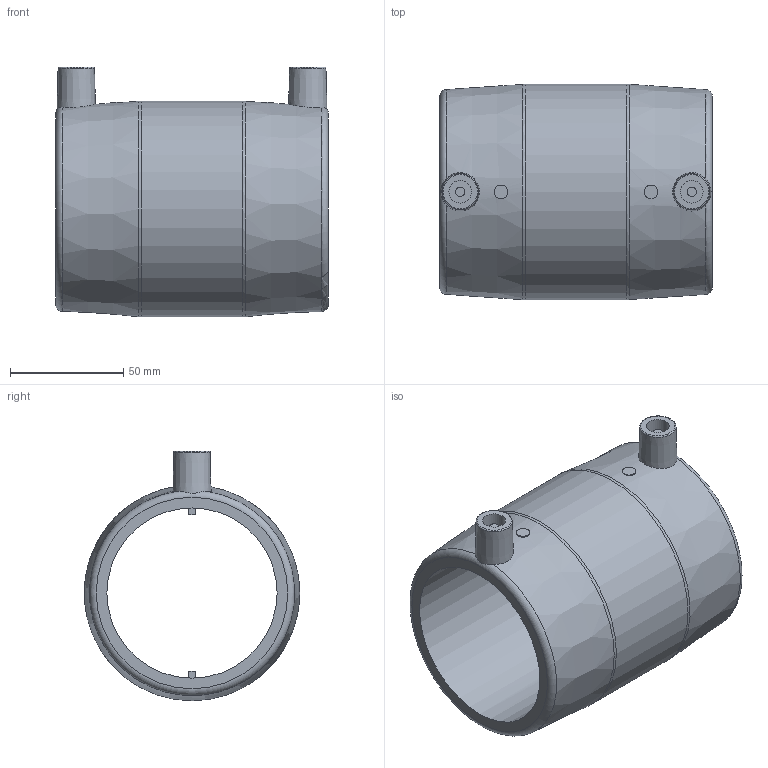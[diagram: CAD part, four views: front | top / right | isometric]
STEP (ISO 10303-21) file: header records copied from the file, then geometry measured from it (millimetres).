
FILE_DESCRIPTION(/* description */ ('Unknown'),/* implementation_level */ '2;1');
FILE_NAME(/* name */ 'MP075C',/* time_stamp */ '2021-02-10T15:22:42+01:00',/* author */ ('Unknown'),/* organization */ ('Unknown'),/* preprocessor_version */ 'ST-DEVELOPER v16.7',/* originating_system */ 'Solid Edge',/* authorisation */ 'Unknown');
FILE_SCHEMA (('AUTOMOTIVE_DESIGN {1 0 10303 214 3 1 1}'));
Length unit declared in the file: millimetre
Products named in the file (1): MP075C
Bounding box: 120 x 95 x 110 mm (x, y, z)
Volume: 297915.3 mm3; surface area: 69671.1 mm2
Topology: 1 solids, 1 shells, 42 faces, 99 edges, 66 vertices
Faces by surface type: plane 20, cylinder 12, torus 6, cone 4
Full cylindrical faces by diameter (mm): 4 x2, 6 x2, 10 x2, 75 x1, 95 x1
Entity records: 1078 total; most frequent: CARTESIAN_POINT 219, DIRECTION 182, ORIENTED_EDGE 132, AXIS2_PLACEMENT_3D 79, EDGE_LOOP 70, FACE_BOUND 70, EDGE_CURVE 66, VERTEX_POINT 52
